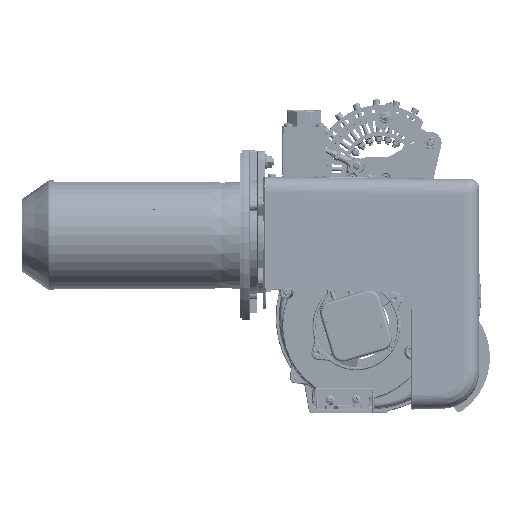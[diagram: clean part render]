
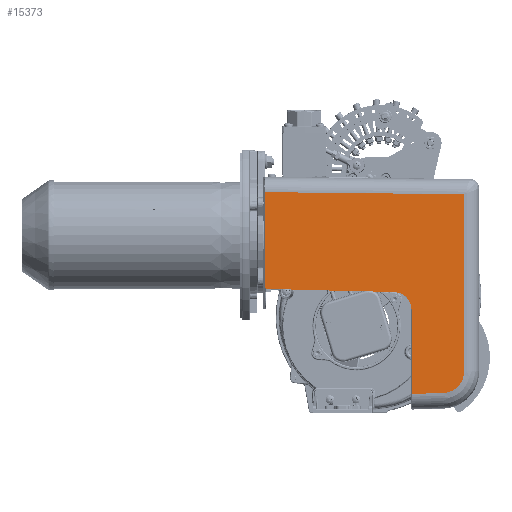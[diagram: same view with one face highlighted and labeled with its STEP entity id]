
A CAD part, top view. The second image highlights one B-rep face of the part: STEP entity #15373.
In plain terms, the highlighted planar face has unit normal (0.026, 0, 1).
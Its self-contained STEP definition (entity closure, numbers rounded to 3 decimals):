
#15373=ADVANCED_FACE('',(#56744),#56746,.F.);
#56744=FACE_BOUND('',#56745,.T.);
#56745=EDGE_LOOP('',(#161599,#161600,#161601,#161602,#161603,#161604,#161605,#161606,
#161607,#161608,#161609,#161610));
#56746=PLANE('',#56747);
#56747=AXIS2_PLACEMENT_3D('',#56748,#56749,#56750);
#56748=CARTESIAN_POINT('',(138.585,-175.,225.599));
#56749=DIRECTION('',(-0.026,0.,-1.));
#56750=DIRECTION('',(-1.,0.,0.026));
#161599=ORIENTED_EDGE('',*,*,#278957,.F.);
#161600=ORIENTED_EDGE('',*,*,#278961,.F.);
#161601=ORIENTED_EDGE('',*,*,#278962,.T.);
#161602=ORIENTED_EDGE('',*,*,#278963,.T.);
#161603=ORIENTED_EDGE('',*,*,#278964,.T.);
#161604=ORIENTED_EDGE('',*,*,#278965,.F.);
#161605=ORIENTED_EDGE('',*,*,#278966,.F.);
#161606=ORIENTED_EDGE('',*,*,#278967,.F.);
#161607=ORIENTED_EDGE('',*,*,#278968,.F.);
#161608=ORIENTED_EDGE('',*,*,#278969,.F.);
#161609=ORIENTED_EDGE('',*,*,#278970,.T.);
#161610=ORIENTED_EDGE('',*,*,#278947,.T.);
#278947=EDGE_CURVE('',#329715,#329713,#329716,.T.);
#278957=EDGE_CURVE('',#329733,#329713,#329734,.T.);
#278961=EDGE_CURVE('',#329740,#329733,#329741,.T.);
#278962=EDGE_CURVE('',#329740,#329742,#329743,.T.);
#278963=EDGE_CURVE('',#329742,#329744,#329745,.T.);
#278964=EDGE_CURVE('',#329744,#329746,#329747,.T.);
#278965=EDGE_CURVE('',#329748,#329746,#329749,.T.);
#278966=EDGE_CURVE('',#329750,#329748,#329751,.T.);
#278967=EDGE_CURVE('',#329752,#329750,#329753,.T.);
#278968=EDGE_CURVE('',#329754,#329752,#329755,.T.);
#278969=EDGE_CURVE('',#329756,#329754,#329757,.T.);
#278970=EDGE_CURVE('',#329756,#329715,#329758,.T.);
#329713=VERTEX_POINT('',#419440);
#329715=VERTEX_POINT('',#419445);
#329716=LINE('',#419446,#419447);
#329733=VERTEX_POINT('',#419483);
#329734=(BOUNDED_CURVE()B_SPLINE_CURVE(3,
(#419484,#419485,#419486,#419487),
.UNSPECIFIED.,.F.,.F.)B_SPLINE_CURVE_WITH_KNOTS((4,4),
(0.,1.),
.UNSPECIFIED.)CURVE()GEOMETRIC_REPRESENTATION_ITEM()RATIONAL_B_SPLINE_CURVE((1.,
1.,1.,1.))REPRESENTATION_ITEM(''));
#329740=VERTEX_POINT('',#419501);
#329741=B_SPLINE_CURVE_WITH_KNOTS('',3,
(#419502,#419503,#419504,#419505,#419506,#419507,#419508,#419509,#419510,#419511,
#419512,#419513,#419514,#419515),
.UNSPECIFIED.,.F.,.F.,
(4,1,1,1,1,1,1,1,1,1,1,4),
(0.,0.052,0.13,0.243,0.379,0.511,
0.631,0.735,0.831,0.905,0.96,
1.),
.UNSPECIFIED.);
#329742=VERTEX_POINT('',#419516);
#329743=LINE('',#419517,#419518);
#329744=VERTEX_POINT('',#419520);
#329745=CIRCLE('',#419521,20.);
#329746=VERTEX_POINT('',#419525);
#329747=LINE('',#419526,#419527);
#329748=VERTEX_POINT('',#419529);
#329749=LINE('',#419530,#419531);
#329750=VERTEX_POINT('',#419533);
#329751=B_SPLINE_CURVE_WITH_KNOTS('',3,
(#419534,#419535,#419536,#419537,#419538,#419539,#419540,#419541,#419542,#419543,
#419544,#419545,#419546,#419547,#419548,#419549,#419550,#419551,#419552,#419553,
#419554,#419555,#419556,#419557,#419558,#419559),
.UNSPECIFIED.,.F.,.F.,
(4,2,2,2,2,2,2,2,2,2,2,2,4),
(0.,0.093,0.185,0.274,0.363,0.451,
0.538,0.625,0.713,0.802,0.891,
0.982,1.),
.UNSPECIFIED.);
#329752=VERTEX_POINT('',#419560);
#329753=LINE('',#419561,#419562);
#329754=VERTEX_POINT('',#419564);
#329755=LINE('',#419565,#419566);
#329756=VERTEX_POINT('',#419568);
#329757=LINE('',#419569,#419570);
#329758=CIRCLE('',#419572,3.);
#419440=CARTESIAN_POINT('',(10.773,39.383,228.946));
#419445=CARTESIAN_POINT('',(-101.399,42.32,231.883));
#419446=CARTESIAN_POINT('',(-101.399,42.32,231.883));
#419447=VECTOR('',#419448,1.);
#419448=DIRECTION('',(0.999,-0.026,-0.026));
#419483=CARTESIAN_POINT('',(11.27,39.543,228.933));
#419484=CARTESIAN_POINT('',(11.27,39.543,228.933));
#419485=CARTESIAN_POINT('',(11.104,39.489,228.937));
#419486=CARTESIAN_POINT('',(10.938,39.436,228.942));
#419487=CARTESIAN_POINT('',(10.773,39.383,228.946));
#419501=CARTESIAN_POINT('',(19.956,39.142,228.706));
#419502=CARTESIAN_POINT('',(19.956,39.142,228.706));
#419503=CARTESIAN_POINT('',(19.815,39.203,228.709));
#419504=CARTESIAN_POINT('',(19.458,39.347,228.719));
#419505=CARTESIAN_POINT('',(18.78,39.585,228.736));
#419506=CARTESIAN_POINT('',(17.846,39.843,228.761));
#419507=CARTESIAN_POINT('',(16.734,40.047,228.79));
#419508=CARTESIAN_POINT('',(15.587,40.145,228.82));
#419509=CARTESIAN_POINT('',(14.53,40.14,228.848));
#419510=CARTESIAN_POINT('',(13.586,40.06,228.872));
#419511=CARTESIAN_POINT('',(12.785,39.934,228.893));
#419512=CARTESIAN_POINT('',(12.134,39.791,228.91));
#419513=CARTESIAN_POINT('',(11.652,39.661,228.923));
#419514=CARTESIAN_POINT('',(11.382,39.579,228.93));
#419515=CARTESIAN_POINT('',(11.27,39.543,228.933));
#419516=CARTESIAN_POINT('',(44.115,38.51,228.073));
#419517=CARTESIAN_POINT('',(19.956,39.142,228.706));
#419518=VECTOR('',#419519,1.);
#419519=DIRECTION('',(0.999,-0.026,-0.026));
#419520=CARTESIAN_POINT('',(63.585,18.517,227.563));
#419521=AXIS2_PLACEMENT_3D('',#419522,#419523,#419524);
#419522=CARTESIAN_POINT('',(43.592,18.517,228.087));
#419523=DIRECTION('',(-0.026,0.,-1.));
#419524=DIRECTION('',(0.026,1.,-0.001));
#419525=CARTESIAN_POINT('',(63.585,-78.005,227.563));
#419526=CARTESIAN_POINT('',(63.585,18.517,227.563));
#419527=VECTOR('',#419528,1.);
#419528=DIRECTION('',(0.,-1.,0.));
#419529=CARTESIAN_POINT('',(99.632,-77.061,226.619));
#419530=CARTESIAN_POINT('',(99.632,-77.061,226.619));
#419531=VECTOR('',#419532,1.);
#419532=DIRECTION('',(-0.999,-0.026,0.026));
#419533=CARTESIAN_POINT('',(123.977,-52.07,225.982));
#419534=CARTESIAN_POINT('',(123.977,-52.07,225.982));
#419535=CARTESIAN_POINT('',(123.943,-53.173,225.983));
#419536=CARTESIAN_POINT('',(123.909,-54.276,225.983));
#419537=CARTESIAN_POINT('',(123.603,-56.503,225.991));
#419538=CARTESIAN_POINT('',(123.381,-57.635,225.997));
#419539=CARTESIAN_POINT('',(122.763,-59.843,226.013));
#419540=CARTESIAN_POINT('',(122.378,-60.953,226.024));
#419541=CARTESIAN_POINT('',(121.447,-63.085,226.048));
#419542=CARTESIAN_POINT('',(120.902,-64.143,226.062));
#419543=CARTESIAN_POINT('',(119.672,-66.142,226.094));
#419544=CARTESIAN_POINT('',(118.976,-67.118,226.113));
#419545=CARTESIAN_POINT('',(117.471,-68.932,226.152));
#419546=CARTESIAN_POINT('',(116.642,-69.799,226.174));
#419547=CARTESIAN_POINT('',(114.9,-71.38,226.219));
#419548=CARTESIAN_POINT('',(113.96,-72.116,226.244));
#419549=CARTESIAN_POINT('',(112.027,-73.427,226.295));
#419550=CARTESIAN_POINT('',(111.002,-74.016,226.321));
#419551=CARTESIAN_POINT('',(108.933,-75.033,226.376));
#419552=CARTESIAN_POINT('',(107.853,-75.465,226.404));
#419553=CARTESIAN_POINT('',(105.702,-76.178,226.46));
#419554=CARTESIAN_POINT('',(104.598,-76.451,226.489));
#419555=CARTESIAN_POINT('',(102.421,-76.86,226.546));
#419556=CARTESIAN_POINT('',(101.323,-76.982,226.575));
#419557=CARTESIAN_POINT('',(100.046,-77.048,226.608));
#419558=CARTESIAN_POINT('',(99.839,-77.055,226.614));
#419559=CARTESIAN_POINT('',(99.632,-77.061,226.619));
#419560=CARTESIAN_POINT('',(123.977,150.8,225.982));
#419561=CARTESIAN_POINT('',(123.977,150.8,225.982));
#419562=VECTOR('',#419563,1.);
#419563=DIRECTION('',(0.,-1.,0.));
#419564=CARTESIAN_POINT('',(-104.319,153.191,231.96));
#419565=CARTESIAN_POINT('',(-104.319,153.191,231.96));
#419566=VECTOR('',#419567,1.);
#419567=DIRECTION('',(1.,-0.01,-0.026));
#419568=CARTESIAN_POINT('',(-104.319,45.319,231.96));
#419569=CARTESIAN_POINT('',(-104.319,45.319,231.96));
#419570=VECTOR('',#419571,1.);
#419571=DIRECTION('',(0.,1.,0.));
#419572=AXIS2_PLACEMENT_3D('',#419573,#419574,#419575);
#419573=CARTESIAN_POINT('',(-101.32,45.319,231.881));
#419574=DIRECTION('',(0.026,0.,1.));
#419575=DIRECTION('',(-1.,0.,0.026));
